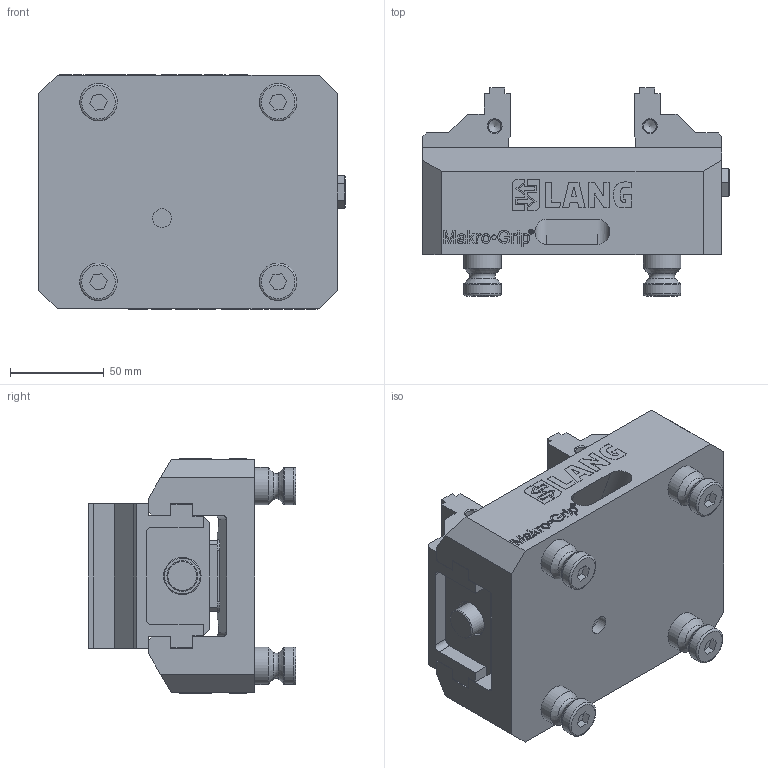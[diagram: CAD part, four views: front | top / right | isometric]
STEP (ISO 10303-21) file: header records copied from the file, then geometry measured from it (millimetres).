
FILE_DESCRIPTION (( 'STEP AP214' ), '1' );
FILE_NAME ('48155-77.STEP', '2020-02-07T12:52:58', ( '' ), ( '' ), 'SwSTEP 2.0', 'SolidWorks 2019', '' );
FILE_SCHEMA (( 'AUTOMOTIVE_DESIGN' ));
Length unit declared in the file: millimetre
Products named in the file (3): 48155-77; 48125-7720; Makro-Grip_48155-77
Assembly tree (3 placements, depth 2):
  48155-77
    Makro-Grip_48155-77
    48125-7720  x2
Bounding box: 164.01 x 111.01 x 125.24 mm (x, y, z)
Volume: 964177.2 mm3; surface area: 167182.9 mm2
Topology: 50 solids, 50 shells, 908 faces, 2306 edges, 1515 vertices
Faces by surface type: plane 623, bspline 192, cylinder 54, cone 27, torus 12
Full cylindrical faces by diameter (mm): 6.8 x4, 8.5 x4, 10 x1, 16 x8, 16.5 x1, 20 x12
Entity records: 42620 total; most frequent: CARTESIAN_POINT 13835, ORIENTED_EDGE 4148, DIRECTION 3093, EDGE_CURVE 2074, LINE 1567, VECTOR 1567, VERTEX_POINT 1401, EDGE_LOOP 959
